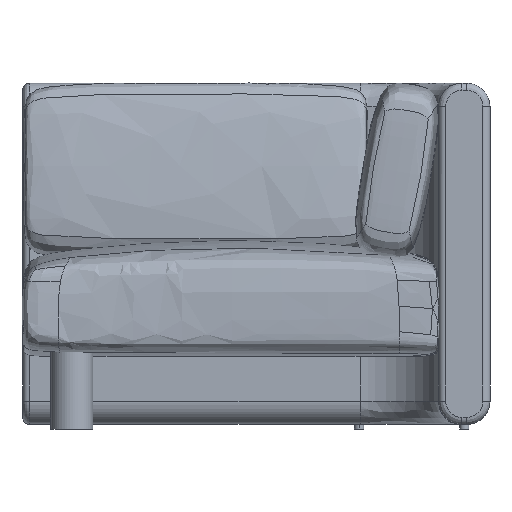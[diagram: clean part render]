
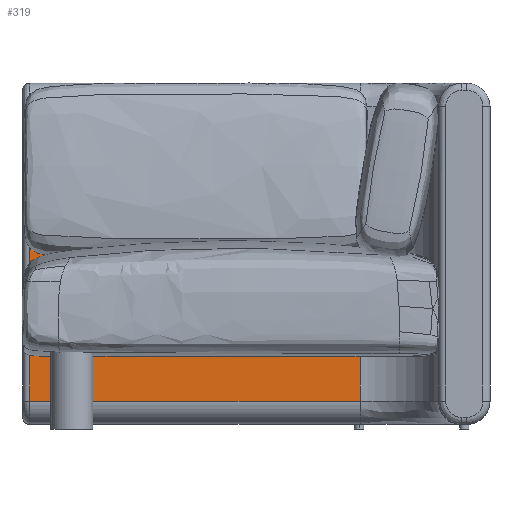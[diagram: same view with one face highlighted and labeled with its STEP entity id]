
A CAD part, front view. The second image highlights one B-rep face of the part: STEP entity #319.
In plain terms, the highlighted planar face has unit normal (0, -1, 0).
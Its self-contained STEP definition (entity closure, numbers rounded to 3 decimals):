
#56=(
BOUNDED_CURVE()
B_SPLINE_CURVE(1,(#9676,#9677),.UNSPECIFIED.,.F.,.F.)
B_SPLINE_CURVE_WITH_KNOTS((2,2),(0.,707.222),
 .UNSPECIFIED.)
CURVE()
GEOMETRIC_REPRESENTATION_ITEM()
RATIONAL_B_SPLINE_CURVE((1.,1.))
REPRESENTATION_ITEM('')
);
#63=(
BOUNDED_CURVE()
B_SPLINE_CURVE(1,(#9695,#9696),.UNSPECIFIED.,.F.,.F.)
B_SPLINE_CURVE_WITH_KNOTS((2,2),(50.,680.),.UNSPECIFIED.)
CURVE()
GEOMETRIC_REPRESENTATION_ITEM()
RATIONAL_B_SPLINE_CURVE((1.,1.))
REPRESENTATION_ITEM('')
);
#71=(
BOUNDED_CURVE()
B_SPLINE_CURVE(1,(#9716,#9717),.UNSPECIFIED.,.F.,.F.)
B_SPLINE_CURVE_WITH_KNOTS((2,2),(0.,707.222),
 .UNSPECIFIED.)
CURVE()
GEOMETRIC_REPRESENTATION_ITEM()
RATIONAL_B_SPLINE_CURVE((1.,1.))
REPRESENTATION_ITEM('')
);
#101=(
BOUNDED_CURVE()
B_SPLINE_CURVE(1,(#9805,#9806),.UNSPECIFIED.,.F.,.F.)
B_SPLINE_CURVE_WITH_KNOTS((2,2),(0.,630.),.UNSPECIFIED.)
CURVE()
GEOMETRIC_REPRESENTATION_ITEM()
RATIONAL_B_SPLINE_CURVE((1.,1.))
REPRESENTATION_ITEM('')
);
#168=PLANE('',#1640);
#319=ADVANCED_FACE('',(#429),#168,.T.);
#429=FACE_OUTER_BOUND('',#539,.T.);
#539=EDGE_LOOP('',(#910,#911,#912,#913));
#910=ORIENTED_EDGE('',*,*,#1195,.T.);
#911=ORIENTED_EDGE('',*,*,#1159,.F.);
#912=ORIENTED_EDGE('',*,*,#1151,.T.);
#913=ORIENTED_EDGE('',*,*,#1143,.T.);
#1143=EDGE_CURVE('',#1418,#1459,#56,.T.);
#1151=EDGE_CURVE('',#1430,#1418,#63,.T.);
#1159=EDGE_CURVE('',#1430,#1460,#71,.T.);
#1195=EDGE_CURVE('',#1459,#1460,#101,.T.);
#1418=VERTEX_POINT('',#9604);
#1430=VERTEX_POINT('',#9616);
#1459=VERTEX_POINT('',#9645);
#1460=VERTEX_POINT('',#9646);
#1640=AXIS2_PLACEMENT_3D('',#9556,#1705,$);
#1705=DIRECTION('',(0.,-1.,0.));
#9556=CARTESIAN_POINT('',(2132.222,390.,0.));
#9604=CARTESIAN_POINT('',(2132.222,390.,680.));
#9616=CARTESIAN_POINT('',(2132.222,390.,50.));
#9645=CARTESIAN_POINT('',(1425.,390.,680.));
#9646=CARTESIAN_POINT('',(1425.,390.,50.));
#9676=CARTESIAN_POINT('',(2132.222,390.,680.));
#9677=CARTESIAN_POINT('',(1425.,390.,680.));
#9695=CARTESIAN_POINT('',(2132.222,390.,50.));
#9696=CARTESIAN_POINT('',(2132.222,390.,680.));
#9716=CARTESIAN_POINT('',(2132.222,390.,50.));
#9717=CARTESIAN_POINT('',(1425.,390.,50.));
#9805=CARTESIAN_POINT('',(1425.,390.,680.));
#9806=CARTESIAN_POINT('',(1425.,390.,50.));
